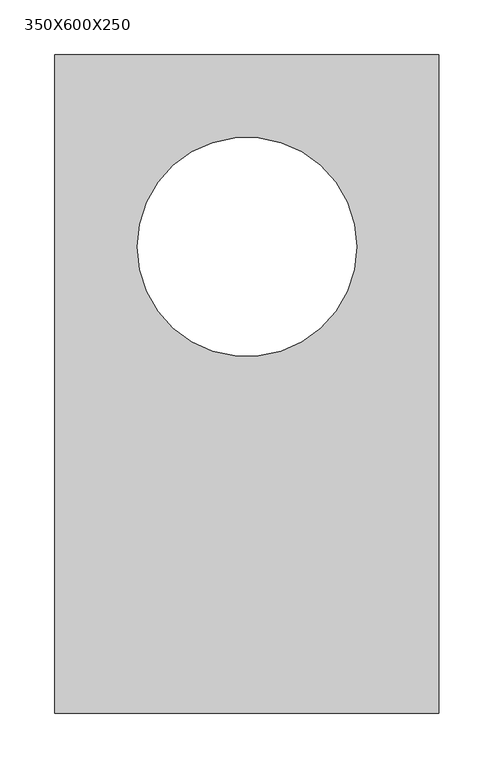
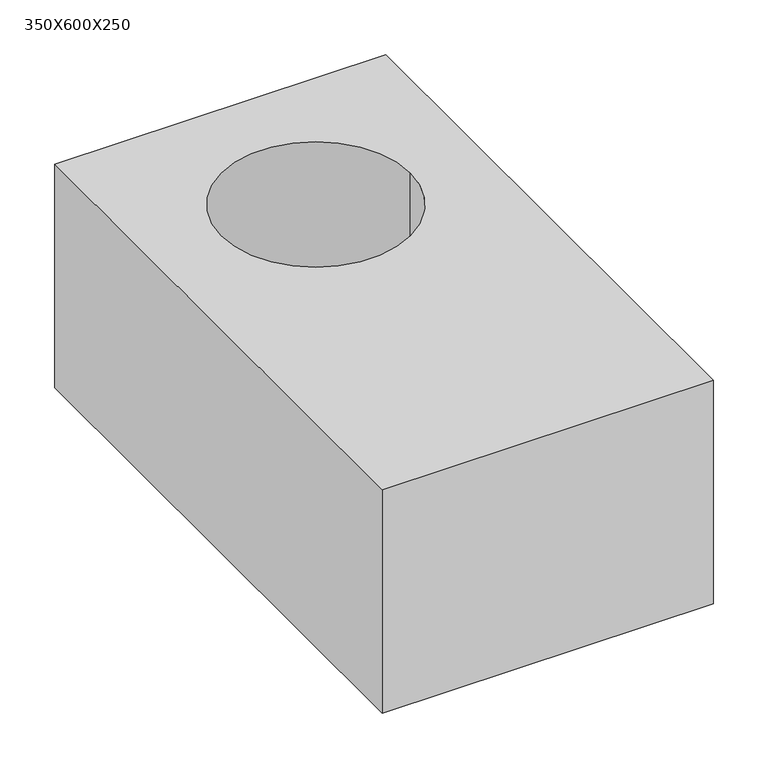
"""IFC4 building model written with IfcOpenShell, lengths in millimetres: plate geometry, GASBETON Evolution Forati : 350X600X250."""

from ifc_helpers import new_model, si_unit, point, frame_2d, origin, origin_with_axes, place, context, project, spatial, polyline, circle_curve, trimmed, segment, composite_curve, outline, extrude, source, transform, mapped, element, save


def plate_350x600x250_4ef98d97(model_context):
    return source(origin(), model_context, "Body", "SweptSolid", [
        extrude(outline(polyline([(175.0, 300.0), (175.0, -300.0), (-175.0, -300.0), (-175.0, 300.0), (175.0, 300.0)]), holes=[composite_curve([segment(trimmed(circle_curve(frame_2d((0.0, 125.0)), 100.0), [point((-100.0, 125.0))], [point((100.0, 125.0))], True, "CARTESIAN"), True, "CONTINUOUS"), segment(trimmed(circle_curve(frame_2d((0.0, 125.0)), 100.0), [point((100.0, 125.0))], [point((-100.0, 125.0))], True, "CARTESIAN"), True, "CONTINUOUS")], self_intersect=False)]), origin_with_axes(), (0.0, 0.0, 1.0), 250.0),
    ])


if __name__ == "__main__":
    model = new_model("IFC4")
    model_context = context("Model", 3, world=origin())
    ifc_project = project(units=[si_unit("LENGTHUNIT", "METRE", prefix="MILLI")], contexts=[model_context])
    site = spatial("IfcSite", under=ifc_project)
    building = spatial("IfcBuilding", under=site)
    placement = place(None, origin())
    plate_350x600x250_shape = plate_350x600x250_4ef98d97(model_context)
    element("IfcPlate", 1, ObjectType="GASBETON Evolution Forati : 350X600X250", at=placement, inside=building, context=model_context, shape_type="MappedRepresentation", body=[
        mapped(plate_350x600x250_shape, transform((0.0, 0.0, 0.0), x_axis=(1.0, 0.0, 0.0), y_axis=(0.0, 1.0, 0.0), z_axis=(0.0, 0.0, 1.0))),
    ])
    save(model, "model.ifc")
